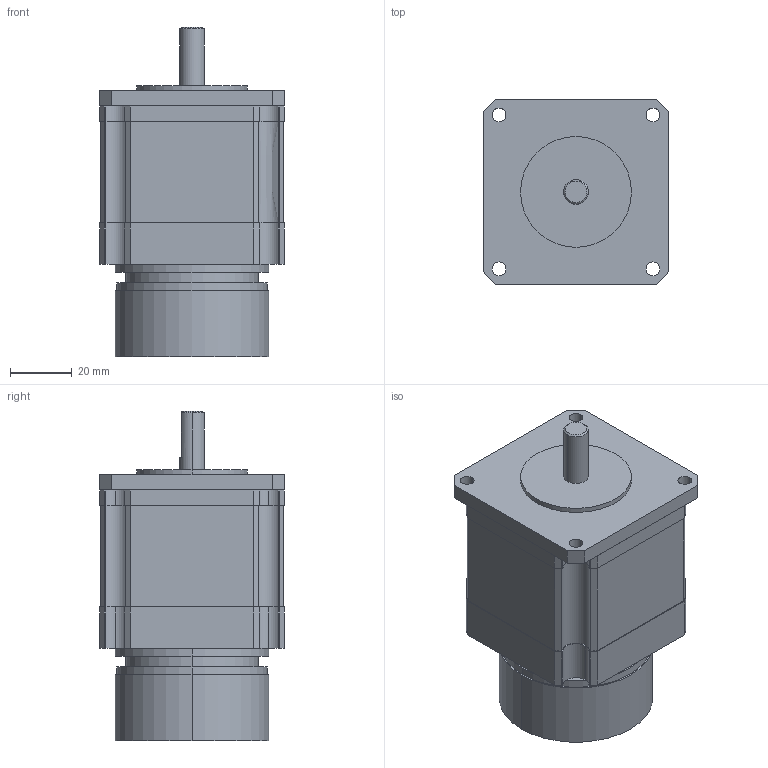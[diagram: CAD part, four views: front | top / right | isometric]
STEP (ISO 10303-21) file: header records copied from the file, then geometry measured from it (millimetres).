
FILE_DESCRIPTION (( 'STEP AP214' ), '1' );
FILE_NAME ('K566-M.STEP', '2016-09-09T07:12:40', ( 'hoho' ), ( '' ), 'SwSTEP 2.0', 'SolidWorks 2013', '' );
FILE_SCHEMA (( 'AUTOMOTIVE_DESIGN' ));
Length unit declared in the file: millimetre
Products named in the file (1): K566-M
Bounding box: 60 x 60 x 107.1 mm (x, y, z)
Volume: 243677.9 mm3; surface area: 27018.8 mm2
Topology: 1 solids, 1 shells, 120 faces, 324 edges, 215 vertices
Faces by surface type: plane 81, cylinder 32, bspline 4, cone 3
Entity records: 4377 total; most frequent: CARTESIAN_POINT 1002, ORIENTED_EDGE 648, DIRECTION 617, EDGE_CURVE 324, VECTOR 245, LINE 245, VERTEX_POINT 215, AXIS2_PLACEMENT_3D 186
